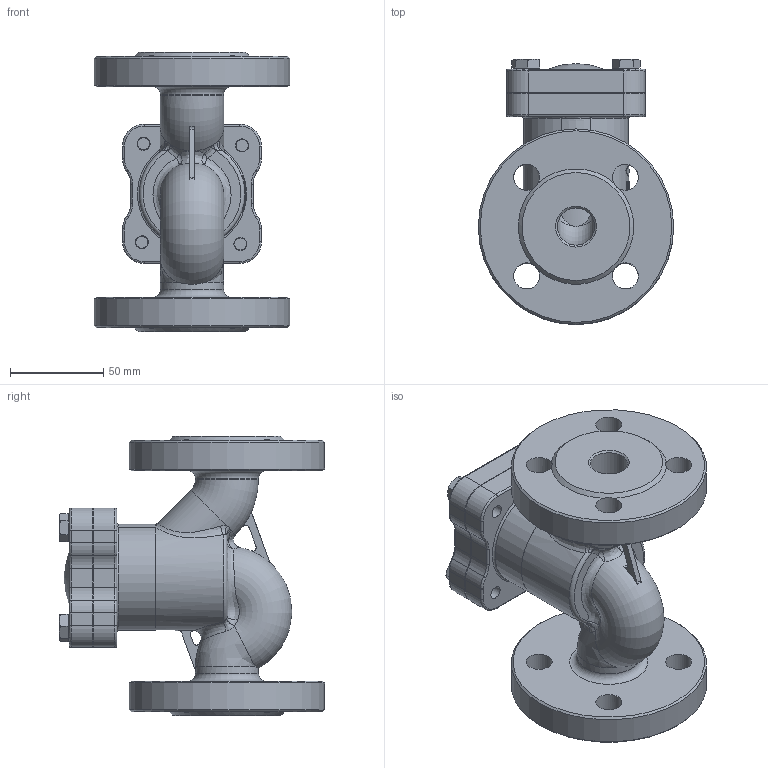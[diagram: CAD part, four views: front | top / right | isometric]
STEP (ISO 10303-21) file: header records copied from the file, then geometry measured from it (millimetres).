
FILE_DESCRIPTION(('STEP AP214'), '1');
FILE_NAME('VCR3131-F 孰囡囗 钺疣蝽 DN.ru 捏20 畜40', '', ('UNSPECIFIED'), ('UNSPECIFIED'), 'C3D Converter', 'C3D Toolkit', '');
FILE_SCHEMA(('AUTOMOTIVE_DESIGN { 1 0 10303 214 3 1 1}'));
Length unit declared in the file: millimetre
Products named in the file (1): VCR3131-F
Bounding box: 105 x 142.5 x 150 mm (x, y, z)
Volume: 614419.7 mm3; surface area: 114437.6 mm2
Topology: 3 solids, 3 shells, 348 faces, 868 edges, 539 vertices
Faces by surface type: plane 141, cylinder 81, bspline 51, cone 36, torus 35, sphere 3, extrusion 1
Full cylindrical faces by diameter (mm): 7 x8, 13 x4, 14 x8, 15 x1, 20 x2, 34 x2, 105 x2
Entity records: 21059 total; most frequent: CARTESIAN_POINT 11138, ORIENTED_EDGE 1636, DIRECTION 1526, EDGE_CURVE 818, AXIS2_PLACEMENT_3D 624, VERTEX_POINT 539, EDGE_LOOP 439, FACE_BOUND 390
